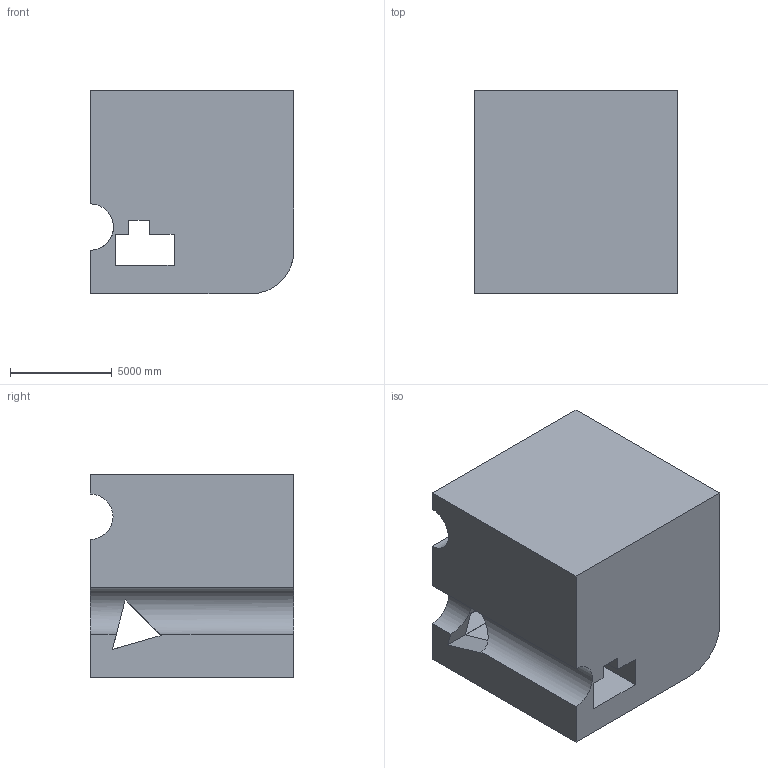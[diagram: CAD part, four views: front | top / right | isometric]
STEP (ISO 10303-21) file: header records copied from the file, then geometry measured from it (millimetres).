
FILE_DESCRIPTION (( 'STEP AP203' ), '1' );
FILE_NAME ('572.STEP', '2022-07-29T11:53:00', ( 'user' ), ( '' ), 'SwSTEP 2.0', 'SolidWorks 2021', '' );
FILE_SCHEMA (( 'CONFIG_CONTROL_DESIGN' ));
Length unit declared in the file: centimetre
Products named in the file (1): 572
Bounding box: 10000 x 10000 x 10000 mm (x, y, z)
Volume: 880676523054.6 mm3; surface area: 738491586.4 mm2
Topology: 1 solids, 1 shells, 30 faces, 93 edges, 62 vertices
Faces by surface type: plane 27, cylinder 3
Entity records: 1112 total; most frequent: CARTESIAN_POINT 201, ORIENTED_EDGE 186, DIRECTION 156, EDGE_CURVE 93, LINE 82, VECTOR 82, VERTEX_POINT 62, AXIS2_PLACEMENT_3D 37
